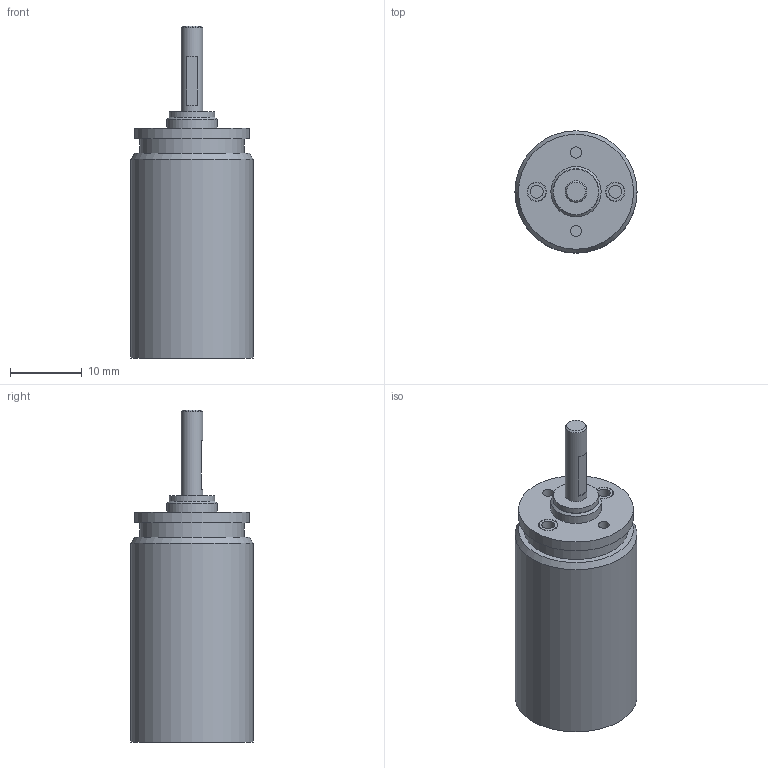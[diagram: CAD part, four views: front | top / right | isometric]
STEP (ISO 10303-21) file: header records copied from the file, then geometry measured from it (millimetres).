
FILE_DESCRIPTION(/* description */ (''),/* implementation_level */ '2;1');
FILE_NAME(/* name */ '16-8_4.stp',/* time_stamp */ '2016-08-25T11:50:05+02:00',/* author */ ('DR. FRITZ FAULHABER GmbH & Co. KG'),/* organization */ ('DR. FRITZ FAULHABER GmbH & Co. KG'),/* preprocessor_version */ 'ST-DEVELOPER v16',/* originating_system */ 'SIEMENS PLM Software NX 10.0',/* authorisation */ '');
FILE_SCHEMA (('AUTOMOTIVE_DESIGN { 1 0 10303 214 3 1 1 1 }'));
Length unit declared in the file: millimetre
Products named in the file (1): H00000459_A
Bounding box: 17 x 17 x 46.2 mm (x, y, z)
Volume: 4574.4 mm3; surface area: 3113.9 mm2
Topology: 1 solids, 1 shells, 41 faces, 65 edges, 43 vertices
Faces by surface type: plane 21, cylinder 17, cone 3
Full cylindrical faces by diameter (mm): 1.6 x2, 1.8 x2, 2.48 x1, 2.584 x2, 2.684 x2, 3 x1, 6 x1, 6.3 x1, 7 x1, 14.5 x1, 16 x2, 17 x1
Entity records: 856 total; most frequent: DIRECTION 166, CARTESIAN_POINT 126, ORIENTED_EDGE 86, AXIS2_PLACEMENT_3D 81, EDGE_LOOP 78, FACE_BOUND 69, EDGE_CURVE 43, ADVANCED_FACE 41
